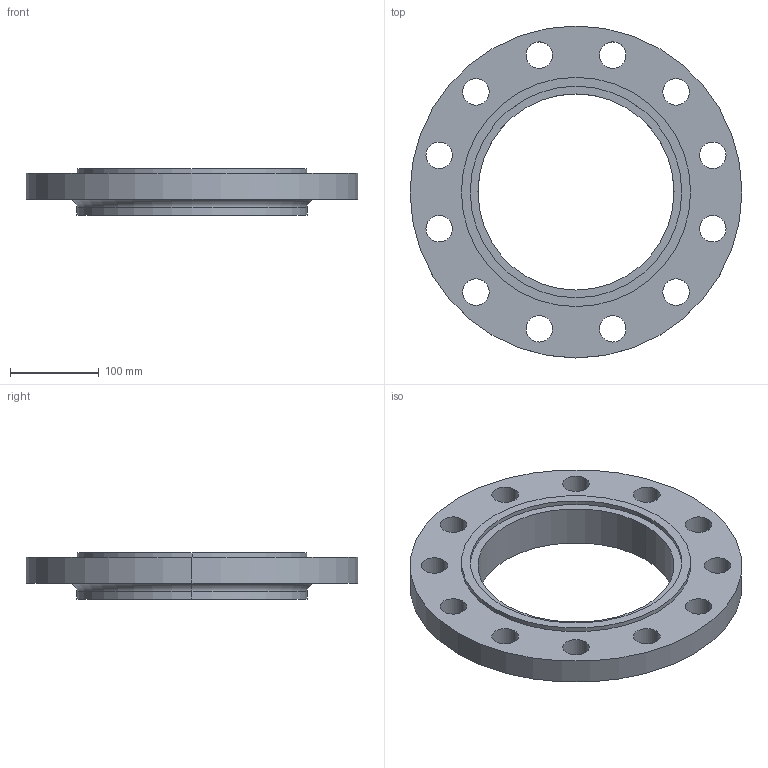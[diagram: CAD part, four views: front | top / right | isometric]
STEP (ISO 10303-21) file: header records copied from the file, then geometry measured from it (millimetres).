
FILE_DESCRIPTION (( 'STEP AP214' ), '1' );
FILE_NAME ('PN40 DN200 Type 12 - Type C Face.STEP', '2019-01-05T02:15:22', ( '' ), ( '' ), 'SwSTEP 2.0', 'SolidWorks 2019', '' );
FILE_SCHEMA (( 'AUTOMOTIVE_DESIGN' ));
Length unit declared in the file: millimetre
Products named in the file (1): PN40 DN200 Type 12 - Type C Face
Bounding box: 375 x 375 x 52 mm (x, y, z)
Volume: 2158510.8 mm3; surface area: 245594.3 mm2
Topology: 1 solids, 1 shells, 41 faces, 106 edges, 70 vertices
Faces by surface type: cylinder 34, plane 5, torus 2
Entity records: 1382 total; most frequent: DIRECTION 262, CARTESIAN_POINT 218, ORIENTED_EDGE 212, AXIS2_PLACEMENT_3D 114, EDGE_CURVE 106, CIRCLE 72, EDGE_LOOP 70, VERTEX_POINT 70
